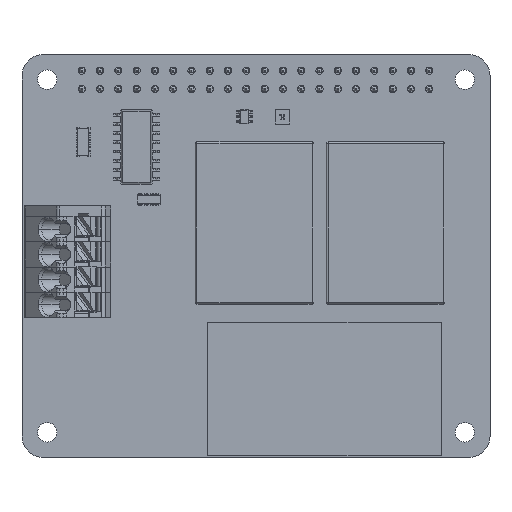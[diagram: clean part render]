
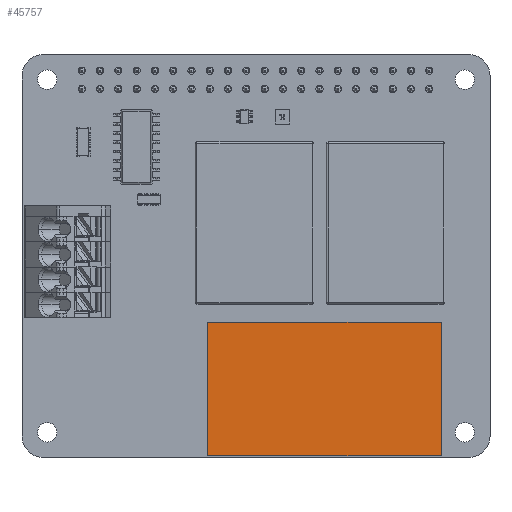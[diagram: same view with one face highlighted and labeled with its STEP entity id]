
A CAD part, top view. The second image highlights one B-rep face of the part: STEP entity #45757.
In plain terms, the highlighted planar face has unit normal (0, 0, 1).
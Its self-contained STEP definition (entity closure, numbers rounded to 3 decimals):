
#45628 = VERTEX_POINT('',#45629);
#45629 = CARTESIAN_POINT('',(25.75,0.25,16.595));
#45644 = VERTEX_POINT('',#45645);
#45645 = CARTESIAN_POINT('',(25.75,18.75,16.595));
#45651 = EDGE_CURVE('',#45628,#45644,#45652,.T.);
#45652 = LINE('',#45653,#45654);
#45653 = CARTESIAN_POINT('',(25.75,0.25,16.595));
#45654 = VECTOR('',#45655,1.);
#45655 = DIRECTION('',(0.,1.,0.));
#45668 = VERTEX_POINT('',#45669);
#45669 = CARTESIAN_POINT('',(58.25,0.25,16.595));
#45684 = VERTEX_POINT('',#45685);
#45685 = CARTESIAN_POINT('',(58.25,18.75,16.595));
#45691 = EDGE_CURVE('',#45668,#45684,#45692,.T.);
#45692 = LINE('',#45693,#45694);
#45693 = CARTESIAN_POINT('',(58.25,0.25,16.595));
#45694 = VECTOR('',#45695,1.);
#45695 = DIRECTION('',(0.,1.,0.));
#45712 = EDGE_CURVE('',#45628,#45668,#45713,.T.);
#45713 = LINE('',#45714,#45715);
#45714 = CARTESIAN_POINT('',(25.75,0.25,16.595));
#45715 = VECTOR('',#45716,1.);
#45716 = DIRECTION('',(1.,0.,0.));
#45734 = EDGE_CURVE('',#45644,#45684,#45735,.T.);
#45735 = LINE('',#45736,#45737);
#45736 = CARTESIAN_POINT('',(25.75,18.75,16.595));
#45737 = VECTOR('',#45738,1.);
#45738 = DIRECTION('',(1.,0.,0.));
#45757 = ADVANCED_FACE('',(#45758),#45764,.T.);
#45758 = FACE_BOUND('',#45759,.T.);
#45759 = EDGE_LOOP('',(#45760,#45761,#45762,#45763));
#45760 = ORIENTED_EDGE('',*,*,#45651,.F.);
#45761 = ORIENTED_EDGE('',*,*,#45712,.T.);
#45762 = ORIENTED_EDGE('',*,*,#45691,.T.);
#45763 = ORIENTED_EDGE('',*,*,#45734,.F.);
#45764 = PLANE('',#45765);
#45765 = AXIS2_PLACEMENT_3D('',#45766,#45767,#45768);
#45766 = CARTESIAN_POINT('',(25.75,0.25,16.595));
#45767 = DIRECTION('',(0.,0.,1.));
#45768 = DIRECTION('',(1.,0.,0.));
